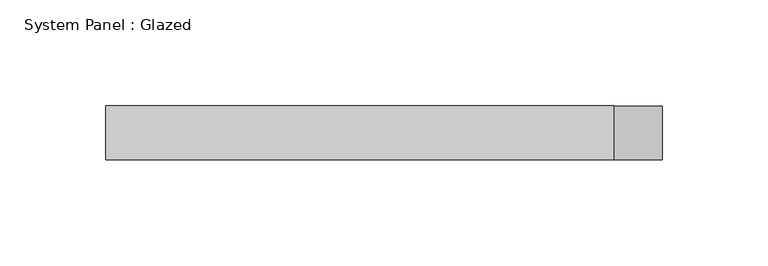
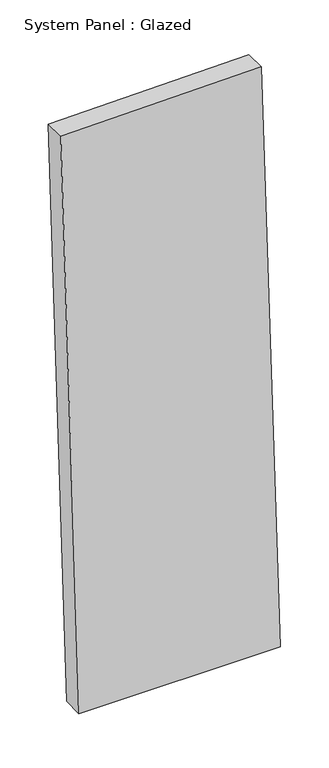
"""IFC4 building model written with IfcOpenShell, lengths in millimetres: plate geometry, System Panel : Glazed."""

from ifc_helpers import new_model, si_unit, frame, origin, place, context, project, spatial, polyline, outline, extrude, source, transform, mapped, element, save


def system_panel_glazed_f881b885(model_context):
    return source(origin(), model_context, "Body", "SweptSolid", [
        extrude(outline(polyline([(0.0, -109.3942443), (0.0, 131.3681891), (740.7132454, 108.397283), (737.0804201, -131.3681891), (0.0, -109.3942443)])), frame((0.0, -44.45, 0.0), z_axis=(0.0, 1.0, 0.0), x_axis=(0.0, 0.0, 1.0)), (0.0, 0.0, 1.0), 25.4),
    ])


if __name__ == "__main__":
    model = new_model("IFC4")
    model_context = context("Model", 3, world=origin())
    ifc_project = project(units=[si_unit("LENGTHUNIT", "METRE", prefix="MILLI")], contexts=[model_context])
    site = spatial("IfcSite", under=ifc_project)
    building = spatial("IfcBuilding", under=site)
    placement = place(None, origin())
    system_panel_glazed_shape = system_panel_glazed_f881b885(model_context)
    element("IfcPlate", 1, ObjectType="System Panel : Glazed", at=placement, inside=building, context=model_context, shape_type="MappedRepresentation", body=[
        mapped(system_panel_glazed_shape, transform((0.0, 0.0, 0.0), x_axis=(1.0, 0.0, 0.0), y_axis=(0.0, 1.0, 0.0), z_axis=(0.0, 0.0, 1.0))),
    ])
    save(model, "model.ifc")
